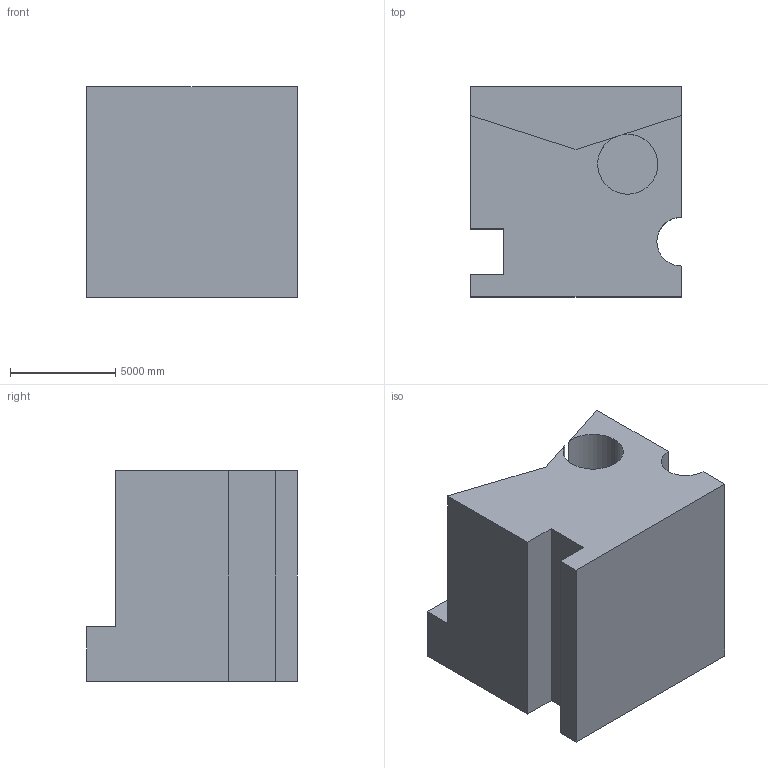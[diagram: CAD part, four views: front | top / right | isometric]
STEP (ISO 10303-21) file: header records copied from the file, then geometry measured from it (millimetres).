
FILE_DESCRIPTION (( 'STEP AP203' ), '1' );
FILE_NAME ('542.STEP', '2022-07-29T11:44:12', ( 'user' ), ( '' ), 'SwSTEP 2.0', 'SolidWorks 2021', '' );
FILE_SCHEMA (( 'CONFIG_CONTROL_DESIGN' ));
Length unit declared in the file: centimetre
Products named in the file (1): 542
Bounding box: 10000 x 10000 x 10000 mm (x, y, z)
Volume: 706204210107.8 mm3; surface area: 705046489.5 mm2
Topology: 1 solids, 1 shells, 28 faces, 78 edges, 52 vertices
Faces by surface type: plane 22, cylinder 6
Entity records: 973 total; most frequent: CARTESIAN_POINT 159, ORIENTED_EDGE 156, DIRECTION 150, EDGE_CURVE 78, VECTOR 64, LINE 64, VERTEX_POINT 52, AXIS2_PLACEMENT_3D 43
